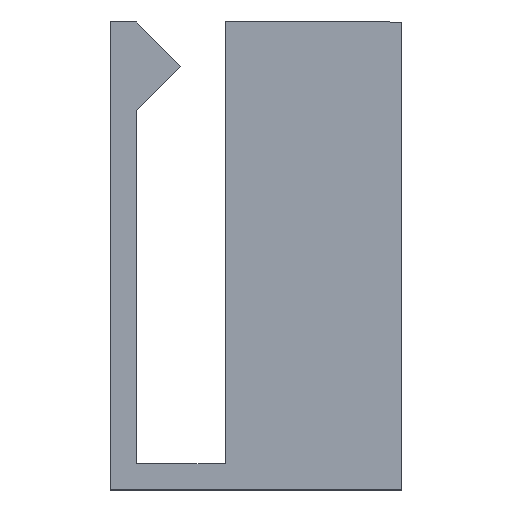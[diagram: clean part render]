
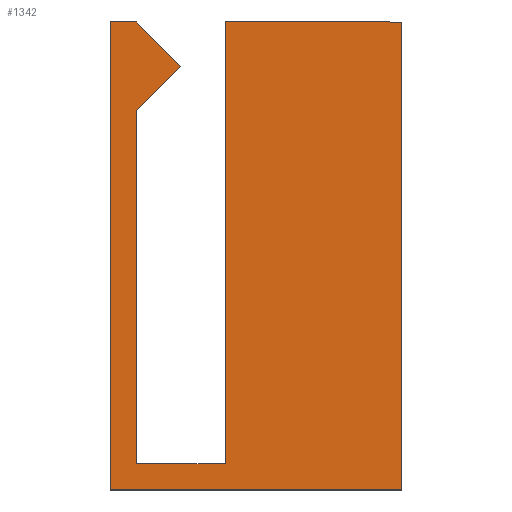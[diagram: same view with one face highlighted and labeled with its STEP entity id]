
A CAD part, left-side view. The second image highlights one B-rep face of the part: STEP entity #1342.
In plain terms, the highlighted planar face has unit normal (-1, 0, 0).
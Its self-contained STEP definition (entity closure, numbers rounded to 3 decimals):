
#70=FACE_OUTER_BOUND('',#142,.T.);
#142=EDGE_LOOP('',(#961,#962,#963,#964,#965,#966,#967,#968,#969,#970));
#273=LINE('',#1967,#451);
#275=LINE('',#1971,#453);
#276=LINE('',#1973,#454);
#277=LINE('',#1975,#455);
#278=LINE('',#1977,#456);
#279=LINE('',#1979,#457);
#280=LINE('',#1981,#458);
#281=LINE('',#1983,#459);
#282=LINE('',#1985,#460);
#283=LINE('',#1986,#461);
#451=VECTOR('',#1589,10.);
#453=VECTOR('',#1593,10.);
#454=VECTOR('',#1594,10.);
#455=VECTOR('',#1595,10.);
#456=VECTOR('',#1596,10.);
#457=VECTOR('',#1597,10.);
#458=VECTOR('',#1598,10.);
#459=VECTOR('',#1599,10.);
#460=VECTOR('',#1600,10.);
#461=VECTOR('',#1601,10.);
#613=VERTEX_POINT('',#1964);
#614=VERTEX_POINT('',#1966);
#615=VERTEX_POINT('',#1970);
#616=VERTEX_POINT('',#1972);
#617=VERTEX_POINT('',#1974);
#618=VERTEX_POINT('',#1976);
#619=VERTEX_POINT('',#1978);
#620=VERTEX_POINT('',#1980);
#621=VERTEX_POINT('',#1982);
#622=VERTEX_POINT('',#1984);
#753=EDGE_CURVE('',#613,#614,#273,.T.);
#755=EDGE_CURVE('',#615,#613,#275,.T.);
#756=EDGE_CURVE('',#616,#615,#276,.T.);
#757=EDGE_CURVE('',#616,#617,#277,.T.);
#758=EDGE_CURVE('',#618,#617,#278,.T.);
#759=EDGE_CURVE('',#619,#618,#279,.T.);
#760=EDGE_CURVE('',#620,#619,#280,.T.);
#761=EDGE_CURVE('',#621,#620,#281,.T.);
#762=EDGE_CURVE('',#621,#622,#282,.T.);
#763=EDGE_CURVE('',#622,#614,#283,.T.);
#961=ORIENTED_EDGE('',*,*,#753,.F.);
#962=ORIENTED_EDGE('',*,*,#755,.F.);
#963=ORIENTED_EDGE('',*,*,#756,.F.);
#964=ORIENTED_EDGE('',*,*,#757,.T.);
#965=ORIENTED_EDGE('',*,*,#758,.F.);
#966=ORIENTED_EDGE('',*,*,#759,.F.);
#967=ORIENTED_EDGE('',*,*,#760,.F.);
#968=ORIENTED_EDGE('',*,*,#761,.F.);
#969=ORIENTED_EDGE('',*,*,#762,.T.);
#970=ORIENTED_EDGE('',*,*,#763,.T.);
#1278=PLANE('',#1416);
#1342=ADVANCED_FACE('',(#70),#1278,.T.);
#1416=AXIS2_PLACEMENT_3D('',#1969,#1591,#1592);
#1589=DIRECTION('',(0.,0.707,-0.707));
#1591=DIRECTION('center_axis',(-1.,0.,0.));
#1592=DIRECTION('ref_axis',(0.,1.,0.));
#1593=DIRECTION('',(0.,-0.707,-0.707));
#1594=DIRECTION('',(0.,-1.,0.));
#1595=DIRECTION('',(0.,0.,-1.));
#1596=DIRECTION('',(0.,1.,0.));
#1597=DIRECTION('',(0.,0.,-1.));
#1598=DIRECTION('',(0.,-1.,0.));
#1599=DIRECTION('',(0.,0.,1.));
#1600=DIRECTION('',(0.,1.,0.));
#1601=DIRECTION('',(0.,0.,1.));
#1964=CARTESIAN_POINT('',(-4.313,-21.,-4.805));
#1966=CARTESIAN_POINT('',(-4.313,-16.,-9.805));
#1967=CARTESIAN_POINT('',(-4.313,-14.75,-11.055));
#1969=CARTESIAN_POINT('Origin',(-4.313,-46.,-49.805));
#1970=CARTESIAN_POINT('',(-4.313,-16.,0.195));
#1971=CARTESIAN_POINT('',(-4.313,-37.25,-21.055));
#1972=CARTESIAN_POINT('',(-4.313,-13.,0.195));
#1973=CARTESIAN_POINT('',(-4.313,-16.,0.195));
#1974=CARTESIAN_POINT('',(-4.313,-13.,-52.805));
#1975=CARTESIAN_POINT('',(-4.313,-13.,-49.805));
#1976=CARTESIAN_POINT('',(-4.313,-46.,-52.805));
#1977=CARTESIAN_POINT('',(-4.313,-16.,-52.805));
#1978=CARTESIAN_POINT('',(-4.313,-46.,0.195));
#1979=CARTESIAN_POINT('',(-4.313,-46.,-49.805));
#1980=CARTESIAN_POINT('',(-4.313,-26.,0.195));
#1981=CARTESIAN_POINT('',(-4.313,-16.,0.195));
#1982=CARTESIAN_POINT('',(-4.313,-26.,-49.805));
#1983=CARTESIAN_POINT('',(-4.313,-26.,-49.805));
#1984=CARTESIAN_POINT('',(-4.313,-16.,-49.805));
#1985=CARTESIAN_POINT('',(-4.313,-16.,-49.805));
#1986=CARTESIAN_POINT('',(-4.313,-16.,-49.805));
